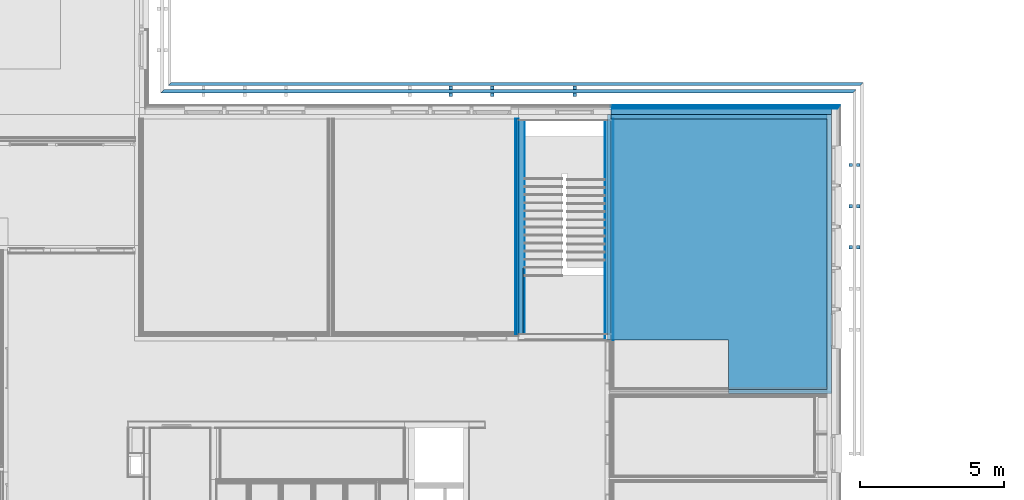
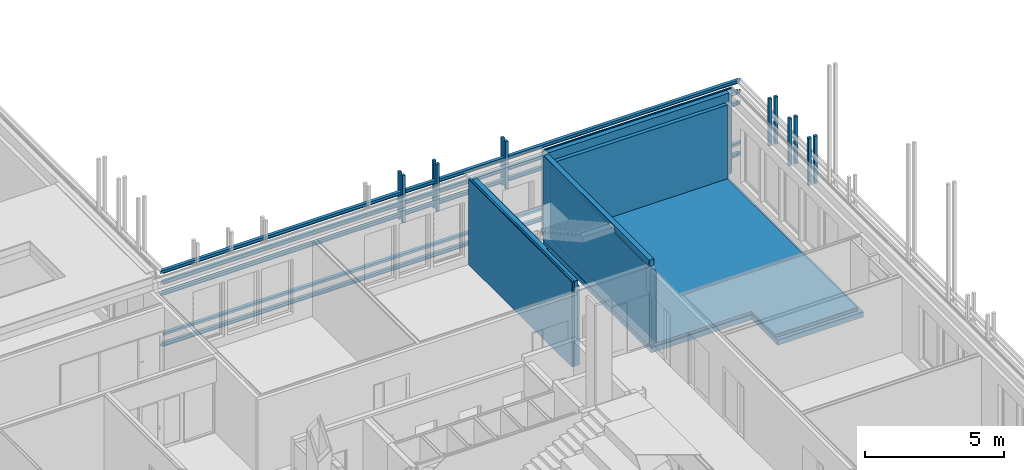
# One storey, part 106 of 139: 24 building element parts, 11 discrete accessories, 4 elements without a shape of their own.
"""IFC2X3 building model written with IfcOpenShell, lengths in millimetres."""

from ifc_helpers import new_model, entity, si_unit, converted_unit, derived_unit, money_unit, direction, frame, origin_with_axes, place, context, subcontext, project, spatial, faceted_brep, material, material_list, type_object, element, aggregate, save


model = new_model("IFC2X3")

# Units and contexts
model_context = context("Model", 3, precision=0.01, world=origin_with_axes(), true_north=direction((0.0, 1.0)))
body_context = subcontext(model_context, "Body", "Model", "MODEL_VIEW")
ifc_project = project(units=[si_unit("LENGTHUNIT", "METRE", prefix="MILLI"), si_unit("AREAUNIT", "SQUARE_METRE"), si_unit("VOLUMEUNIT", "CUBIC_METRE"), converted_unit("PLANEANGLEUNIT", "DEGREE", entity("IfcPlaneAngleMeasure", 0.0174532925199), si_unit("PLANEANGLEUNIT", "RADIAN"), dimensions=[0, 0, 0, 0, 0, 0, 0]), money_unit("EUR"), converted_unit("TIMEUNIT", "Year", entity("IfcTimeMeasure", 31556926.0), si_unit("TIMEUNIT", "SECOND"), dimensions=[0, 0, 1, 0, 0, 0, 0]), si_unit("MASSUNIT", "GRAM", prefix="KILO"), si_unit("THERMODYNAMICTEMPERATUREUNIT", "DEGREE_CELSIUS"), si_unit("LUMINOUSINTENSITYUNIT", "LUMEN"), si_unit("ENERGYUNIT", "JOULE", prefix="MEGA"), derived_unit("THERMALCONDUCTANCEUNIT", [(si_unit("POWERUNIT", "WATT"), 1), (si_unit("LENGTHUNIT", "METRE"), -1), (si_unit("THERMODYNAMICTEMPERATUREUNIT", "KELVIN"), -1)]), derived_unit("SPECIFICHEATCAPACITYUNIT", [(si_unit("ENERGYUNIT", "JOULE"), 1), (si_unit("MASSUNIT", "GRAM", prefix="KILO"), -1), (si_unit("THERMODYNAMICTEMPERATUREUNIT", "KELVIN"), -1)]), derived_unit("MASSDENSITYUNIT", [(si_unit("MASSUNIT", "GRAM", prefix="KILO"), 1), (si_unit("VOLUMEUNIT", "CUBIC_METRE"), -1)])], contexts=[model_context])

# Site, building, storey
site_placement = place(None, origin_with_axes())
site = spatial("IfcSite", under=ifc_project, at=site_placement, Name="Kolde pst 67a", CompositionType="ELEMENT")
building_placement = place(site_placement, origin_with_axes())
building = spatial("IfcBuilding", under=site, at=building_placement, Name="Riigigümnaasium", CompositionType="ELEMENT")
storey_placement = place(building_placement, frame((0.0, 0.0, 4600.0), z_axis=(0.0, 0.0, 1.0), x_axis=(1.0, 0.0, 0.0)))
storey = spatial("IfcBuildingStorey", under=building, at=storey_placement, Name="2. korrus", CompositionType="ELEMENT", Elevation=4600.0)

# Discrete accessories
ifc_material_1 = material(Name="_VÄLISVIIMISTLUS - sõrmjätkatud puitprussid 120x115mm, liitekohad vähemärgatavad, Platowood sõrmjätkatud kuusk või samaväärne; eeltöödeldud tuletõkkevõõbaga, tuletundlikkus B-s1, d0, Woodsafe Exterior WFX™ või samaväärne; kinnitused vastavalt EK osale")
ifc_material_list = material_list([ifc_material_1, ifc_material_1])
discrete_accessory_type_1 = type_object("IfcDiscreteAccessoryType", Name="1+paiksekaitse 4 tk nihkes 2 370 x 355")
for number, where, z_axis, x_axis in (
    (1, (60804.99419, 60805.0000955, 2630.0), (0.0, 0.0, 1.0), (-1.63647727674e-08, 1.0, 0.0)),
    (2, (60804.99419, 60805.0000955, 3110.0), (0.0, 0.0, 1.0), (-1.63647727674e-08, 1.0, 0.0)),
    (3, (60804.99419, 60805.0000955, -100.0), (0.0, 0.0, 1.0), (-1.63647727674e-08, 1.0, 0.0)),
    (4, (60804.99419, 60805.0000955, 2150.0), (0.0, 0.0, 1.0), (-1.63647727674e-08, 1.0, 0.0)),
):
    element("IfcDiscreteAccessory", number, at=place(storey_placement, frame(where, z_axis=z_axis, x_axis=x_axis)), inside=storey, type_object=discrete_accessory_type_1, material=ifc_material_list, Name="Päikesevarjestus", context=body_context, shape_type="Brep", body=[
        faceted_brep([(375.0, 23626.9949238, 347.001360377), (375.0, -375.000006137, 347.001360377), (495.0, -495.000008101, 357.5), (495.0, 23506.9949218, 357.5), (375.0, 23626.9949238, 242.5), (375.0, -375.000006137, 242.5), (495.0, -495.000008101, 242.5), (495.0, 23506.9949218, 242.5)], [[[0, 1, 2, 3]], [[4, 5, 1, 0]], [[5, 6, 2, 1]], [[3, 2, 6, 7]], [[4, 0, 3, 7]], [[7, 6, 5, 4]]]),
        faceted_brep([(625.0, 23376.9949197, 107.001360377), (625.0, -625.000010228, 107.001360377), (745.0, -745.000012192, 117.5), (745.0, 23256.9949177, 117.5), (625.0, 23376.9949197, 2.5), (625.0, -625.000010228, 2.5), (745.0, -745.000012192, 2.5), (745.0, 23256.9949177, 2.5)], [[[0, 1, 2, 3]], [[4, 5, 1, 0]], [[5, 6, 2, 1]], [[3, 2, 6, 7]], [[4, 0, 3, 7]], [[7, 6, 5, 4]]]),
    ])
discrete_accessory_type_2 = type_object("IfcDiscreteAccessoryType", Name="1+paiksekaitse 3 370 x 115")
for number, where, z_axis, x_axis in (
    (5, (61771.9937454, 55885.0013897, 2150.0), (0.0, 0.0, 1.0), (-1.0, 0.0, 0.0)),
    (6, (61771.9937454, 57315.0013897, 2150.0), (0.0, 0.0, 1.0), (-1.0, 0.0, 0.0)),
    (7, (47184.9923672, 61772.0001843, 2150.0), (0.0, 0.0, 1.0), (0.0, -1.0, 0.0)),
    (8, (51474.9923672, 61772.0001843, 2150.0), (0.0, 0.0, 1.0), (0.0, -1.0, 0.0)),
    (9, (48614.9923672, 61772.0001843, 2150.0), (0.0, 0.0, 1.0), (0.0, -1.0, 0.0)),
    (10, (61771.9937454, 58740.0083538, 2150.0), (0.0, 0.0, 1.0), (-1.0, 0.0, 0.0)),
):
    element("IfcDiscreteAccessory", number, at=place(storey_placement, frame(where, z_axis=z_axis, x_axis=x_axis)), inside=storey, type_object=discrete_accessory_type_2, material=ifc_material_list, Name="Päikesevarjestus", context=body_context, shape_type="Brep", body=[
        faceted_brep([(467.0, 117.5, 0.0), (347.0, 117.5, 0.0), (347.0, 117.5, 2090.0), (467.0, 117.5, 2090.0), (467.0, 2.5, 0.0), (347.0, 2.5, 0.0), (347.0, 2.5, 2090.0), (467.0, 2.5, 2090.0)], [[[0, 1, 2, 3]], [[0, 4, 5, 1]], [[1, 5, 6, 2]], [[3, 2, 6, 7]], [[4, 0, 3, 7]], [[5, 4, 7, 6]]]),
        faceted_brep([(717.0, 117.5, 0.0), (597.0, 117.5, 0.0), (597.0, 117.5, 2090.0), (717.0, 117.5, 2090.0), (717.0, 2.5, 0.0), (597.0, 2.5, 0.0), (597.0, 2.5, 2090.0), (717.0, 2.5, 2090.0)], [[[0, 1, 2, 3]], [[0, 4, 5, 1]], [[1, 5, 6, 2]], [[3, 2, 6, 7]], [[4, 0, 3, 7]], [[5, 4, 7, 6]]]),
    ])
discrete_accessory_type_3 = type_object("IfcDiscreteAccessoryType", Name="1+paiksekaitse 4 tk nihkes 1 120 x 115")
discrete_accessory_placement = place(storey_placement, frame((60804.9936136, 60805.0000955, 380.0), z_axis=(0.0, 0.0, 1.0), x_axis=(-1.63647728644e-08, 1.0, 0.0)))
element("IfcDiscreteAccessory", 11, at=discrete_accessory_placement, inside=storey, type_object=discrete_accessory_type_3, material=ifc_material_1, Name="Päikesevarjestus", context=body_context, shape_type="Brep", body=[
    faceted_brep([(745.0, 23256.9943413, 117.5), (625.0, 23376.9943433, 107.001360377), (625.0, -625.0005866, 107.001360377), (745.0, -745.000588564, 117.5), (745.0, 23256.9943413, 2.5), (625.0, 23376.9943433, 2.5), (625.0, -625.0005866, 2.5), (745.0, -745.000588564, 2.5)], [[[0, 1, 2, 3]], [[4, 5, 1, 0]], [[1, 5, 6, 2]], [[2, 6, 7, 3]], [[4, 0, 3, 7]], [[5, 4, 7, 6]]]),
])

# Wall, building element parts
wall_type_1 = type_object("IfcWallType", Name="VS-CLT-16/1_soojust 200+laudis 472", PredefinedType="NOTDEFINED")
wall_1_placement = place(storey_placement, frame((60439.9941222, 60440.0001843, -130.0), z_axis=(0.0, 0.0, 1.0), x_axis=(-1.0, 0.0, 0.0)))
wall_1 = element("IfcWall", 12, at=wall_1_placement, inside=storey, type_object=wall_type_1, Name="Välissein")
ifc_material_2 = material(Name="_KANDETARIND - CLT ristkihtliimpuit vastavalt EK osale, CLT paigaldusvuugid teibitakse ROTHOBLAAS teibiga")
building_element_part_1_placement = place(wall_1_placement, origin_with_axes())
building_element_part_1 = element("IfcBuildingElementPart", 13, at=building_element_part_1_placement, material=ifc_material_2, Name="_KANDETARIND - CLT ristkihtliimpuit vastavalt EK osale, CLT paigaldusvuugid teibitakse ROTHOBLAAS teibiga", context=body_context, shape_type="Brep", body=[
    faceted_brep([(7649.9999383, 0.0, 3380.0), (160.0, 0.0, 3380.0), (160.0, 0.0, 0.0), (7650.0, 0.0, 0.0), (160.0, 160.0, 3380.0), (7649.9999383, 160.0, 3380.0), (160.0, 160.0, 0.0), (7650.0, 160.0, 0.0)], [[[0, 1, 2, 3]], [[4, 1, 0, 5]], [[1, 4, 6, 2]], [[6, 7, 3, 2]], [[5, 0, 3, 7]], [[4, 5, 7, 6]]]),
])
ifc_material_3 = material(Name="_SOOJUSTUS - mineraalvill, λD<0,032 W/(mK), kuumtsingitud lehtteras termoroovidega, S350GD+Zn275 vastavalt EN10346, ISOVER EXTREME 32 200mm või samaväärne")
building_element_part_2_placement = place(wall_1_placement, origin_with_axes())
building_element_part_2 = element("IfcBuildingElementPart", 14, at=building_element_part_2_placement, material=ifc_material_3, Name="_SOOJUSTUS - mineraalvill, λD<0,032 W/(mK), kuumtsingitud lehtteras termoroovidega, S350GD+Zn275 vastavalt EN10346, ISOVER EXTREME 32 200mm või samaväärne", context=body_context, shape_type="Brep", body=[
    faceted_brep([(0.0, 0.0, 0.0), (7650.0, 0.0, 0.0), (7650.0, -200.0, 0.0), (0.0, -200.0, 0.0), (0.0, 0.0, 3750.0), (7650.0, 0.0, 3750.0), (7650.0, -200.0, 3750.0), (0.0, -200.0, 3750.0)], [[[0, 1, 2, 3]], [[4, 5, 1, 0]], [[2, 1, 5, 6]], [[3, 2, 6, 7]], [[4, 0, 3, 7]], [[7, 6, 5, 4]]]),
])
ifc_material_4 = material(Name="_TUULETÕKE - tuuletõkkeplaat, soojuserijuhtivus λD<0,031 W/(mK), ISOVER RKL FACADE või samaväärne, liitekohad katta tihendusteibiga ISOVER FacadeTape või samaväärne")
building_element_part_3_placement = place(wall_1_placement, origin_with_axes())
building_element_part_3 = element("IfcBuildingElementPart", 15, at=building_element_part_3_placement, material=ifc_material_4, Name="_TUULETÕKE - tuuletõkkeplaat, soojuserijuhtivus λD<0,031 W/(mK), ISOVER RKL FACADE või samaväärne, liitekohad katta tihendusteibiga ISOVER FacadeTape või samaväärne", context=body_context, shape_type="Brep", body=[
    faceted_brep([(7650.0, -200.0, 0.0), (7650.0, -230.0, 0.0), (-200.0, -230.0, 0.0), (-200.0, -200.0, 0.0), (7650.0, -200.0, 3750.0), (7650.0, -230.0, 3750.0), (-200.0, -230.0, 3750.0), (-200.0, -200.0, 3750.0)], [[[0, 1, 2, 3]], [[0, 4, 5, 1]], [[1, 5, 6, 2]], [[3, 2, 6, 7]], [[4, 0, 3, 7]], [[5, 4, 7, 6]]]),
])
ifc_material_5 = material(Name="_KARKASS - puitroov 32x50mm vertikaalne, immutatud Driconi tulekaitsevahendiga või samaväärne, samm 600mm")
building_element_part_4_placement = place(wall_1_placement, origin_with_axes())
building_element_part_4 = element("IfcBuildingElementPart", 16, at=building_element_part_4_placement, material=ifc_material_5, Name="_KARKASS - puitroov 32x50mm vertikaalne, immutatud Driconi tulekaitsevahendiga või samaväärne, samm 600mm", context=body_context, shape_type="Brep", body=[
    faceted_brep([(7650.0, -230.0, 0.0), (7650.0, -262.0, 0.0), (-230.0, -262.0, 0.0), (-230.0, -230.0, 0.0), (7650.0, -230.0, 3750.0), (7650.0, -262.0, 3750.0), (-230.0, -262.0, 3750.0), (-230.0, -230.0, 3750.0)], [[[0, 1, 2, 3]], [[0, 4, 5, 1]], [[1, 5, 6, 2]], [[3, 2, 6, 7]], [[4, 0, 3, 7]], [[5, 4, 7, 6]]]),
])
ifc_material_6 = material(Name="_KARKASS - puitroov 32x50mm horisontaalne, immutatud Driconi tulekaitsevahendiga või samaväärne, samm 600mm")
building_element_part_5_placement = place(wall_1_placement, origin_with_axes())
building_element_part_5 = element("IfcBuildingElementPart", 17, at=building_element_part_5_placement, material=ifc_material_6, Name="_KARKASS - puitroov 32x50mm horisontaalne, immutatud Driconi tulekaitsevahendiga või samaväärne, samm 600mm", context=body_context, shape_type="Brep", body=[
    faceted_brep([(7650.0, -262.0, 0.0), (7650.0, -294.0, 0.0), (-262.0, -294.0, 0.0), (-262.0, -262.0, 0.0), (7650.0, -262.0, 3750.0), (7650.0, -294.0, 3750.0), (-262.0, -294.0, 3750.0), (-262.0, -262.0, 3750.0)], [[[0, 1, 2, 3]], [[0, 4, 5, 1]], [[1, 5, 6, 2]], [[3, 2, 6, 7]], [[4, 0, 3, 7]], [[5, 4, 7, 6]]]),
])
ifc_material_7 = material(Name="_VÄLISVIIMISTLUS - vertikaalne voodrilaud, Platowood P01 profiil 18x140mm, kuusk; eeltöödeldud tuletõkkega mõlemad küljed, B-s1, d0, Woodsafe Exterior WFX™ või samaväärne")
building_element_part_6_placement = place(wall_1_placement, origin_with_axes())
building_element_part_6 = element("IfcBuildingElementPart", 18, at=building_element_part_6_placement, material=ifc_material_7, Name="_VÄLISVIIMISTLUS - vertikaalne voodrilaud, Platowood P01 profiil 18x140mm, kuusk; eeltöödeldud tuletõkkega mõlemad küljed, B-s1, d0, Woodsafe Exterior WFX™ või samaväärne", context=body_context, shape_type="Brep", body=[
    faceted_brep([(7650.0, -294.0, 0.0), (7650.0, -312.0, 0.0), (-294.0, -312.0, 0.0), (-294.0, -294.0, 0.0), (7650.0, -294.0, 3750.0), (7650.0, -312.0, 3750.0), (-294.0, -312.0, 3750.0), (-294.0, -294.0, 3750.0)], [[[0, 1, 2, 3]], [[0, 4, 5, 1]], [[1, 5, 6, 2]], [[3, 2, 6, 7]], [[4, 0, 3, 7]], [[5, 4, 7, 6]]]),
])
aggregate(wall_1, [building_element_part_1, building_element_part_2, building_element_part_3, building_element_part_4, building_element_part_5, building_element_part_6])

wall_type_2 = type_object("IfcWallType", Name="SS-RB-20/11_kipsil krohv+roov60 +krohv 310", PredefinedType="NOTDEFINED")
wall_2_placement = place(storey_placement, frame((52789.9941222, 60280.0001843, 0.0), z_axis=(0.0, 0.0, 1.0), x_axis=(0.0, -1.0, 0.0)))
wall_2 = element("IfcWall", 19, at=wall_2_placement, inside=storey, type_object=wall_type_2, Name="Sisesein")
ifc_material_8 = material(Name="_VIIMISTLUSKIHT - viimistlus vastavalt SA osale")
building_element_part_7_placement = place(wall_2_placement, origin_with_axes())
building_element_part_7 = element("IfcBuildingElementPart", 20, at=building_element_part_7_placement, material=ifc_material_8, Name="_VIIMISTLUSKIHT - viimistlus vastavalt SA osale", context=body_context, shape_type="Brep", body=[
    faceted_brep([(0.0, 91.0, 3175.0), (0.0, 100.0, 3175.0), (0.0, 100.0, 0.0), (0.0, 91.0, 0.0), (7670.0, 100.0, 3175.0), (7670.0, 91.0, 3175.0), (7670.0, 100.0, 0.0), (7670.0, 91.0, 0.0)], [[[0, 1, 2, 3]], [[4, 1, 0, 5]], [[1, 4, 6, 2]], [[3, 2, 6, 7]], [[5, 0, 3, 7]], [[4, 5, 7, 6]]]),
])
ifc_material_9 = material(Name="_PLAATMATERJAL - tuletõkkekipsplaat, Knauf Red GKF või samaväärne")
building_element_part_8_placement = place(wall_2_placement, origin_with_axes())
building_element_part_8 = element("IfcBuildingElementPart", 21, at=building_element_part_8_placement, material=ifc_material_9, Name="_PLAATMATERJAL - tuletõkkekipsplaat, Knauf Red GKF või samaväärne", context=body_context, shape_type="Brep", body=[
    faceted_brep([(0.0, 78.5, 3175.0), (0.0, 91.0, 3175.0), (0.0, 91.0, 0.0), (0.0, 78.5, 0.0), (7670.0, 91.0, 3175.0), (7670.0, 78.5, 3175.0), (7670.0, 91.0, 0.0), (7670.0, 78.5, 0.0)], [[[0, 1, 2, 3]], [[4, 1, 0, 5]], [[1, 4, 6, 2]], [[3, 2, 6, 7]], [[5, 0, 3, 7]], [[4, 5, 7, 6]]]),
])
ifc_material_10 = material(Name="_PLAATMATERJAL - OSB3 plaat")
building_element_part_9_placement = place(wall_2_placement, origin_with_axes())
building_element_part_9 = element("IfcBuildingElementPart", 22, at=building_element_part_9_placement, material=ifc_material_10, Name="_PLAATMATERJAL - OSB3 plaat", context=body_context, shape_type="Brep", body=[
    faceted_brep([(0.0, 66.0, 3175.0), (0.0, 78.5, 3175.0), (0.0, 78.5, 0.0), (0.0, 66.0, 0.0), (7670.0, 78.5, 3175.0), (7670.0, 66.0, 3175.0), (7670.0, 78.5, 0.0), (7670.0, 66.0, 0.0)], [[[0, 1, 2, 3]], [[4, 1, 0, 5]], [[1, 4, 6, 2]], [[3, 2, 6, 7]], [[5, 0, 3, 7]], [[4, 5, 7, 6]]]),
])
ifc_material_11 = material(Name="_KARKASS - metallkarkass CW 66/35/06, samm 600, mineraalvill karkassi vahel")
building_element_part_10_placement = place(wall_2_placement, origin_with_axes())
building_element_part_10 = element("IfcBuildingElementPart", 23, at=building_element_part_10_placement, material=ifc_material_11, Name="_KARKASS - metallkarkass CW 66/35/06, samm 600, mineraalvill karkassi vahel", context=body_context, shape_type="Brep", body=[
    faceted_brep([(0.0, 0.0, 3175.0), (0.0, 66.0, 3175.0), (0.0, 66.0, 0.0), (0.0, 0.0, 0.0), (7670.0, 66.0, 3175.0), (7670.0, 6.16954665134e-05, 3175.0), (7670.0, 66.0, 0.0), (7670.0, 0.0, 0.0)], [[[0, 1, 2, 3]], [[4, 1, 0, 5]], [[1, 4, 6, 2]], [[6, 7, 3, 2]], [[5, 0, 3, 7]], [[4, 5, 7, 6]]]),
])
ifc_material_12 = material(Name="_KANDETARIND - monteeritav raudbetoon vastavalt EK osale")
building_element_part_11_placement = place(wall_2_placement, origin_with_axes())
building_element_part_11 = element("IfcBuildingElementPart", 24, at=building_element_part_11_placement, material=ifc_material_12, Name="_KANDETARIND - monteeritav raudbetoon vastavalt EK osale", context=body_context, shape_type="Brep", body=[
    faceted_brep([(50.0, 0.0, 3750.0), (7670.0, 0.0, 3750.0), (7670.0, 0.0, 3470.0), (7460.0, 0.0, 3470.0), (7460.0, 0.0, 0.0), (50.0, 0.0, 0.0), (50.0, -200.0, 3750.0), (7670.0, -200.0, 3750.0), (7670.0, -200.0, 3470.0), (7460.0, -200.0, 3470.0), (7460.0, -200.0, 0.0), (50.0, -200.0, 0.0)], [[[0, 1, 2, 3, 4, 5]], [[6, 7, 1, 0]], [[1, 7, 8, 2]], [[8, 9, 3, 2]], [[9, 10, 4, 3]], [[11, 5, 4, 10]], [[0, 5, 11, 6]], [[10, 9, 8, 7, 6, 11]]]),
])
building_element_part_12_placement = place(wall_2_placement, origin_with_axes())
building_element_part_12 = element("IfcBuildingElementPart", 25, at=building_element_part_12_placement, material=ifc_material_8, Name="_VIIMISTLUSKIHT - viimistlus vastavalt SA osale", context=body_context, shape_type="Brep", body=[
    faceted_brep([(7669.83187883, -199.999938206, 3470.0), (7669.83187883, -199.999938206, 3750.0), (7670.0, -200.0, 3750.0), (7670.0, -200.0, 3470.0), (7669.83187883, -210.0, 3470.0), (7669.83187883, -210.0, 3750.0), (7670.0, -210.0, 3750.0), (7670.0, -210.0, 3470.0)], [[[0, 1, 2, 3]], [[1, 0, 4, 5]], [[1, 5, 6, 2]], [[6, 7, 3, 2]], [[4, 0, 3, 7]], [[4, 7, 6, 5]]]),
    faceted_brep([(5170.03544845, -210.0, 3750.0), (5170.03544845, -210.0, 3460.0), (5170.03569237, -199.999938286, 3460.0), (5170.03569237, -199.999938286, 3750.0), (50.0, -210.0, 3750.0), (50.0, -210.0, 0.0), (7670.0, -210.0, 0.0), (7670.0, -210.0, 2300.0), (7460.0, -210.0, 2300.0), (7460.0, -210.0, 3460.0), (7460.0, -199.999938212, 3460.0), (7460.0, -200.0, 2300.0), (7670.0, -200.0, 2300.0), (7670.0, -200.0, 0.0), (50.0, -200.0, 0.0), (50.0, -200.0, 3750.0)], [[[0, 1, 2, 3]], [[1, 0, 4, 5, 6, 7, 8, 9]], [[10, 2, 1, 9]], [[2, 10, 11, 12, 13, 14, 15, 3]], [[0, 3, 15, 4]], [[14, 5, 4, 15]], [[13, 6, 5, 14]], [[13, 12, 7, 6]], [[11, 8, 7, 12]], [[10, 9, 8, 11]]]),
])
aggregate(wall_2, [building_element_part_7, building_element_part_8, building_element_part_9, building_element_part_10, building_element_part_11, building_element_part_12])

wall_type_3 = type_object("IfcWallType", Name="SS-RB-20/9_kipsil krohv+roov66 +krohv 325", PredefinedType="NOTDEFINED")
wall_3_placement = place(storey_placement, frame((49800.0100555, 52820.0001843, 0.0), z_axis=(0.0, 0.0, 1.0), x_axis=(0.0, 1.0, 0.0)))
wall_3 = element("IfcWall", 26, at=wall_3_placement, inside=storey, type_object=wall_type_3, Name="Sisesein")
building_element_part_13_placement = place(wall_3_placement, origin_with_axes())
building_element_part_13 = element("IfcBuildingElementPart", 27, at=building_element_part_13_placement, material=ifc_material_8, Name="_VIIMISTLUSKIHT - viimistlus vastavalt SA osale", context=body_context, shape_type="Brep", body=[
    faceted_brep([(7460.0, 306.0, 3750.0), (7460.0, 315.0, 3750.0), (0.0, 315.0, 3750.0), (0.0, 306.0, 3750.0), (7460.0, 306.0, 0.0), (7460.0, 315.0, 0.0), (0.0, 315.0, 0.0), (0.0, 306.0, 0.0)], [[[0, 1, 2, 3]], [[0, 4, 5, 1]], [[1, 5, 6, 2]], [[3, 2, 6, 7]], [[4, 0, 3, 7]], [[5, 4, 7, 6]]]),
])
building_element_part_14_placement = place(wall_3_placement, origin_with_axes())
building_element_part_14 = element("IfcBuildingElementPart", 28, at=building_element_part_14_placement, material=ifc_material_9, Name="_PLAATMATERJAL - tuletõkkekipsplaat, Knauf Red GKF või samaväärne", context=body_context, shape_type="Brep", body=[
    faceted_brep([(7460.0, 291.0, 3750.0), (7460.0, 306.0, 3750.0), (0.0, 306.0, 3750.0), (0.0, 291.0, 3750.0), (7460.0, 291.0, 0.0), (7460.0, 306.0, 0.0), (0.0, 306.0, 0.0), (0.0, 291.0, 0.0)], [[[0, 1, 2, 3]], [[0, 4, 5, 1]], [[1, 5, 6, 2]], [[3, 2, 6, 7]], [[4, 0, 3, 7]], [[5, 4, 7, 6]]]),
])
building_element_part_15_placement = place(wall_3_placement, origin_with_axes())
building_element_part_15 = element("IfcBuildingElementPart", 29, at=building_element_part_15_placement, material=ifc_material_10, Name="_PLAATMATERJAL - OSB3 plaat", context=body_context, shape_type="Brep", body=[
    faceted_brep([(7460.0, 276.0, 3750.0), (7460.0, 291.0, 3750.0), (0.0, 291.0, 3750.0), (0.0, 276.0, 3750.0), (7460.0, 276.0, 0.0), (7460.0, 291.0, 0.0), (0.0, 291.0, 0.0), (0.0, 276.0, 0.0)], [[[0, 1, 2, 3]], [[0, 4, 5, 1]], [[1, 5, 6, 2]], [[3, 2, 6, 7]], [[4, 0, 3, 7]], [[5, 4, 7, 6]]]),
])
building_element_part_16_placement = place(wall_3_placement, origin_with_axes())
building_element_part_16 = element("IfcBuildingElementPart", 30, at=building_element_part_16_placement, material=ifc_material_11, Name="_KARKASS - metallkarkass CW 66/35/06, samm 600, mineraalvill karkassi vahel", context=body_context, shape_type="Brep", body=[
    faceted_brep([(0.0, 276.0, 3750.0), (0.0, 210.0, 3750.0), (7460.0, 210.0, 3750.0), (7460.0, 276.0, 3750.0), (0.0, 276.0, 0.0), (0.0, 210.0, 0.0), (7460.0, 210.0, 0.0), (7460.0, 276.0, 0.0)], [[[0, 1, 2, 3]], [[4, 5, 1, 0]], [[1, 5, 6, 2]], [[7, 3, 2, 6]], [[4, 0, 3, 7]], [[5, 4, 7, 6]]]),
])
ifc_material_13 = material(Name="_ÕHKVAHE")
building_element_part_17_placement = place(wall_3_placement, origin_with_axes())
building_element_part_17 = element("IfcBuildingElementPart", 31, at=building_element_part_17_placement, material=ifc_material_13, Name="_ÕHKVAHE", context=body_context, shape_type="Brep", body=[
    faceted_brep([(7410.0, 210.000000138, 3750.0), (7460.0, 209.936337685, 3750.0), (7460.0, 210.0, 3750.0), (7420.0, 209.987267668, 3320.0), (7420.0, 209.987267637, 3600.0), (7460.0, 209.936337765, 3600.0), (7410.0, 210.000000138, 3320.0), (7460.0, 210.000000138, 3600.0), (7420.0, 210.000000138, 3600.0), (7420.0, 210.000000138, 3320.0), (7410.0, 210.000000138, 0.0), (0.0, 210.0, 0.0), (0.0, 210.0, 3750.0), (7410.0, 200.0, 3750.0), (7410.0, 200.0, 0.0), (0.0, 200.0, 0.0), (0.0, 200.0, 3750.0)], [[[0, 1, 2]], [[3, 4, 5, 1, 0, 6]], [[1, 5, 7, 2]], [[7, 8, 9, 6, 10, 11, 12, 0, 2]], [[8, 4, 3, 9]], [[8, 7, 5, 4]], [[6, 0, 13, 14, 10]], [[6, 9, 3]], [[11, 10, 14, 15]], [[11, 15, 16, 12]], [[16, 13, 0, 12]], [[15, 14, 13, 16]]]),
])
building_element_part_18_placement = place(wall_3_placement, origin_with_axes())
building_element_part_18 = element("IfcBuildingElementPart", 32, at=building_element_part_18_placement, material=ifc_material_12, Name="_KANDETARIND - monteeritav raudbetoon vastavalt EK osale", context=body_context, shape_type="Brep", body=[
    faceted_brep([(2290.03382505, 60.0233833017, 3750.0), (2290.03382505, 60.0233833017, 3460.0), (2290.03236096, 0.0, 3460.0), (2290.03236096, 0.0, 3750.0), (0.0, 60.0233833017, 3460.0), (0.0, 60.0233833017, 3750.0), (0.0, 0.0, 3460.0), (0.0, 0.0, 0.0), (7410.0, 0.0, 0.0), (7410.0, 0.0, 3750.0), (7410.0, 200.0, 3750.0), (0.0, 200.0, 3750.0), (0.0, 200.0, 0.0), (7410.0, 200.0, 0.0)], [[[0, 1, 2, 3]], [[4, 1, 0, 5]], [[6, 2, 1, 4]], [[2, 6, 7, 8, 9, 3]], [[5, 0, 3, 9, 10, 11]], [[4, 5, 11, 12, 7, 6]], [[7, 12, 13, 8]], [[8, 13, 10, 9]], [[12, 11, 10, 13]]]),
])
building_element_part_19_placement = place(wall_3_placement, origin_with_axes())
building_element_part_19 = element("IfcBuildingElementPart", 33, at=building_element_part_19_placement, material=ifc_material_8, Name="_VIIMISTLUSKIHT - viimistlus vastavalt SA osale", context=body_context, shape_type="Brep", body=[
    faceted_brep([(2290.03236096, 0.0, 3750.0), (2290.03236096, 0.0, 3460.0), (2290.03211704, -10.0, 3460.0), (2290.03211704, -10.0, 3750.0), (7410.0, 0.0, 3750.0), (7410.0, 0.0, 0.0), (0.0, 0.0, 0.0), (0.0, 0.0, 3460.0), (0.0, -10.0, 3460.0), (0.0, -10.0, 0.0), (7410.0, -10.0, 0.0), (7410.0, -10.0, 3750.0)], [[[0, 1, 2, 3]], [[1, 0, 4, 5, 6, 7]], [[8, 2, 1, 7]], [[2, 8, 9, 10, 11, 3]], [[0, 3, 11, 4]], [[10, 5, 4, 11]], [[9, 6, 5, 10]], [[8, 7, 6, 9]]]),
])
aggregate(wall_3, [building_element_part_13, building_element_part_14, building_element_part_15, building_element_part_16, building_element_part_17, building_element_part_18, building_element_part_19])

# Slab, building element parts
slab_type = type_object("IfcSlabType", Name="VL-RB-22/3_PVC 370", PredefinedType="NOTDEFINED")
slab_placement = place(storey_placement, frame((52679.9941222, 60440.0001843, 0.0), z_axis=(0.0, 0.0, 1.0), x_axis=(1.0, 0.0, 0.0)))
slab = element("IfcSlab", 34, at=slab_placement, inside=storey, type_object=slab_type, Name="VAHELAGI", PredefinedType="NOTDEFINED")
building_element_part_20_placement = place(slab_placement, origin_with_axes())
building_element_part_20 = element("IfcBuildingElementPart", 35, at=building_element_part_20_placement, material=ifc_material_8, Name="_VIIMISTLUSKIHT - viimistlus vastavalt SA osale", context=body_context, shape_type="Brep", body=[
    faceted_brep([(4184.9999888, -9514.99980569, 0.0), (7600.0, -9514.99980569, 0.0), (7600.0, -160.0, 0.0), (110.0, -160.0, 0.0), (110.0, 0.0, 0.0), (0.0, 0.0, 0.0), (1.82645010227e-07, -7820.0, 0.0), (4184.9999888, -7820.0, 0.0), (7600.0, -9514.99980569, -3.0), (4184.9999888, -9514.99980569, -3.0), (7600.0, -160.0, -3.0), (110.0, -160.0, -3.0), (110.0, 0.0, -3.0), (0.0, 0.0, -3.0), (1.82645010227e-07, -7820.0, -3.0), (4184.9999888, -7820.0, -3.0)], [[[0, 1, 2, 3, 4, 5, 6, 7]], [[8, 1, 0, 9]], [[1, 8, 10, 2]], [[3, 2, 10, 11]], [[12, 4, 3, 11]], [[4, 12, 13, 5]], [[13, 14, 6, 5]], [[14, 15, 7, 6]], [[9, 0, 7, 15]], [[8, 9, 15, 14, 13, 12, 11, 10]]]),
])
ifc_material_14 = material(Name="_UJUV TARIND - täitematerjal 1800 kg/m3")
building_element_part_21_placement = place(slab_placement, origin_with_axes())
building_element_part_21 = element("IfcBuildingElementPart", 36, at=building_element_part_21_placement, material=ifc_material_14, Name="_UJUV TARIND - täitematerjal 1800 kg/m3", context=body_context, shape_type="Brep", body=[
    faceted_brep([(4184.9999888, -9544.99980569, -3.0), (7600.0, -9544.99980569, -3.0), (7600.0, -160.0, -3.0), (110.0, -160.0, -3.0), (110.0, 0.0, -3.0), (0.0, 0.0, -3.0), (1.82645010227e-07, -7820.0, -3.0), (4184.9999888, -7820.0, -3.0), (7600.0, -9544.99980569, -100.0), (4184.9999888, -9544.99980569, -100.0), (7600.0, -160.0, -100.0), (110.0, -160.0, -100.0), (110.0, 0.0, -100.0), (0.0, 0.0, -100.0), (1.82645010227e-07, -7820.0, -100.0), (4184.9999888, -7820.0, -100.0)], [[[0, 1, 2, 3, 4, 5, 6, 7]], [[8, 1, 0, 9]], [[1, 8, 10, 2]], [[3, 2, 10, 11]], [[12, 4, 3, 11]], [[4, 12, 13, 5]], [[13, 14, 6, 5]], [[14, 15, 7, 6]], [[9, 0, 7, 15]], [[8, 9, 15, 14, 13, 12, 11, 10]]]),
])
ifc_material_15 = material(Name="_SOOJUSTUS - mürasummutav mineraalvill ISOVER FLO")
building_element_part_22_placement = place(slab_placement, origin_with_axes())
building_element_part_22 = element("IfcBuildingElementPart", 37, at=building_element_part_22_placement, material=ifc_material_15, Name="_SOOJUSTUS - mürasummutav mineraalvill ISOVER FLO", context=body_context, shape_type="Brep", body=[
    faceted_brep([(4184.9999888, -9544.99980569, -100.0), (7600.0, -9544.99980569, -100.0), (7600.0, -160.0, -100.0), (110.0, -160.0, -100.0), (110.0, 0.0, -100.0), (0.0, 0.0, -100.0), (1.82645010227e-07, -7820.0, -100.0), (4184.9999888, -7820.0, -100.0), (7600.0, -9544.99980569, -130.0), (4184.9999888, -9544.99980569, -130.0), (7600.0, -160.0, -130.0), (110.0, -160.0, -130.0), (110.0, 0.0, -130.0), (0.0, 0.0, -130.0), (1.82645010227e-07, -7820.0, -130.0), (4184.9999888, -7820.0, -130.0)], [[[0, 1, 2, 3, 4, 5, 6, 7]], [[8, 1, 0, 9]], [[1, 8, 10, 2]], [[3, 2, 10, 11]], [[12, 4, 3, 11]], [[4, 12, 13, 5]], [[13, 14, 6, 5]], [[14, 15, 7, 6]], [[9, 0, 7, 15]], [[8, 9, 15, 14, 13, 12, 11, 10]]]),
])
ifc_material_16 = material(Name="_SOOJUSTUS - vahtploüstüreenplaadid EPS100")
building_element_part_23_placement = place(slab_placement, origin_with_axes())
building_element_part_23 = element("IfcBuildingElementPart", 38, at=building_element_part_23_placement, material=ifc_material_16, Name="_SOOJUSTUS - vahtploüstüreenplaadid EPS100", context=body_context, shape_type="Brep", body=[
    faceted_brep([(1.82645010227e-07, -7820.0, -150.0), (1.82645010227e-07, -7820.0, -130.0), (0.0, 0.0, -130.0), (0.0, 0.0, -150.0), (4184.9999888, -7820.0, -150.0), (4184.9999888, -7820.0, -130.0), (4184.9999888, -9684.99980569, -130.0), (7760.0, -9684.99980569, -130.0), (7760.0, 0.0, -130.0), (7760.0, 0.0, -150.0), (7760.0, -9684.99980569, -150.0), (4184.9999888, -9684.99980569, -150.0)], [[[0, 1, 2, 3]], [[4, 5, 1, 0]], [[2, 1, 5, 6, 7, 8]], [[3, 2, 8, 9]], [[3, 9, 10, 11, 4, 0]], [[11, 6, 5, 4]], [[10, 7, 6, 11]], [[9, 8, 7, 10]]]),
])
ifc_material_17 = material(Name="_KANDETARIND - monteeritav raudbetoon õõnespaneel, C50/60, eelpingestatud copy")
building_element_part_24_placement = place(slab_placement, origin_with_axes())
building_element_part_24 = element("IfcBuildingElementPart", 39, at=building_element_part_24_placement, material=ifc_material_17, Name="_KANDETARIND - monteeritav raudbetoon õõnespaneel, C50/60, eelpingestatud copy", context=body_context, shape_type="Brep", body=[
    faceted_brep([(0.0, 0.0, -370.0), (1.82645010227e-07, -7820.0, -370.0), (1.82645010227e-07, -7820.0, -150.0), (0.0, 0.0, -150.0), (7760.0, 0.0, -370.0), (7760.0, -9684.99980569, -370.0), (4184.9999888, -9684.99980569, -370.0), (4184.9999888, -7820.0, -370.0), (4184.9999888, -7820.0, -150.0), (4184.9999888, -9684.99980569, -150.0), (7760.0, -9684.99980569, -150.0), (7760.0, 0.0, -150.0)], [[[0, 1, 2, 3]], [[0, 4, 5, 6, 7, 1]], [[1, 7, 8, 2]], [[3, 2, 8, 9, 10, 11]], [[4, 0, 3, 11]], [[5, 4, 11, 10]], [[6, 5, 10, 9]], [[7, 6, 9, 8]]]),
])
aggregate(slab, [building_element_part_20, building_element_part_21, building_element_part_22, building_element_part_23, building_element_part_24])

save(model, "model.ifc")
